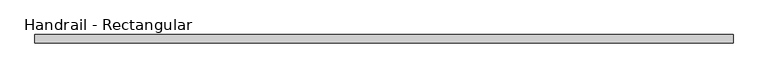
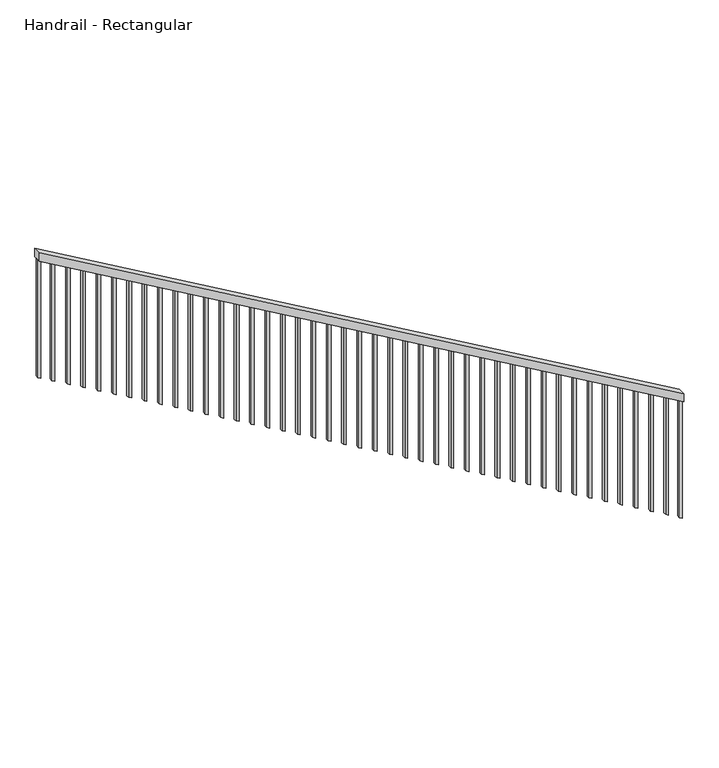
"""IFC4 building model written with IfcOpenShell, lengths in millimetres: railing geometry, Handrail - Rectangular."""

from ifc_helpers import new_model, si_unit, frame, origin, place, context, project, spatial, polyline, outline, extrude, source, transform, mapped, element, save


def handrail_rectangular_4e1d5308(model_context):
    return source(origin(), model_context, "Body", "SweptSolid", [
        extrude(outline(polyline([(1032.6379887, 55694.0814628), (1091.3806452, 55694.0814628), (3569.1096774, 51426.8814628), (3510.367021, 51426.8814628), (1032.6379887, 55694.0814628)])), frame((0.0, 3804.5924581, 0.0), z_axis=(0.0, 1.0, 0.0), x_axis=(0.0, 0.0, 1.0)), (0.0, 0.0, 1.0), 50.8),
        extrude(outline(polyline([(3456.9041177, 51518.9564628), (2634.0582633, 51518.9564628), (2622.996973, 51538.0064628), (3445.8428274, 51538.0064628), (3456.9041177, 51518.9564628)])), frame((0.0, 3820.4674581, 0.0), z_axis=(0.0, 1.0, 0.0), x_axis=(0.0, 0.0, 1.0)), (0.0, 0.0, 1.0), 19.05),
        extrude(outline(polyline([(3397.9105693, 51620.5564628), (2575.064715, 51620.5564628), (2564.0034246, 51639.6064628), (3386.849279, 51639.6064628), (3397.9105693, 51620.5564628)])), frame((0.0, 3820.4674581, 0.0), z_axis=(0.0, 1.0, 0.0), x_axis=(0.0, 0.0, 1.0)), (0.0, 0.0, 1.0), 19.05),
        extrude(outline(polyline([(3338.917021, 51722.1564628), (2516.0711666, 51722.1564628), (2505.0098762, 51741.2064628), (3327.8557306, 51741.2064628), (3338.917021, 51722.1564628)])), frame((0.0, 3820.4674581, 0.0), z_axis=(0.0, 1.0, 0.0), x_axis=(0.0, 0.0, 1.0)), (0.0, 0.0, 1.0), 19.05),
        extrude(outline(polyline([(3279.9234726, 51823.7564628), (2457.0776182, 51823.7564628), (2446.0163279, 51842.8064628), (3268.8621823, 51842.8064628), (3279.9234726, 51823.7564628)])), frame((0.0, 3820.4674581, 0.0), z_axis=(0.0, 1.0, 0.0), x_axis=(0.0, 0.0, 1.0)), (0.0, 0.0, 1.0), 19.05),
        extrude(outline(polyline([(3220.9299242, 51925.3564628), (2398.0840698, 51925.3564628), (2387.0227795, 51944.4064628), (3209.8686339, 51944.4064628), (3220.9299242, 51925.3564628)])), frame((0.0, 3820.4674581, 0.0), z_axis=(0.0, 1.0, 0.0), x_axis=(0.0, 0.0, 1.0)), (0.0, 0.0, 1.0), 19.05),
        extrude(outline(polyline([(3161.9363758, 52026.9564628), (2339.0905214, 52026.9564628), (2328.0292311, 52046.0064628), (3150.8750855, 52046.0064628), (3161.9363758, 52026.9564628)])), frame((0.0, 3820.4674581, 0.0), z_axis=(0.0, 1.0, 0.0), x_axis=(0.0, 0.0, 1.0)), (0.0, 0.0, 1.0), 19.05),
        extrude(outline(polyline([(3102.9428274, 52128.5564628), (2280.096973, 52128.5564628), (2269.0356827, 52147.6064628), (3091.8815371, 52147.6064628), (3102.9428274, 52128.5564628)])), frame((0.0, 3820.4674581, 0.0), z_axis=(0.0, 1.0, 0.0), x_axis=(0.0, 0.0, 1.0)), (0.0, 0.0, 1.0), 19.05),
        extrude(outline(polyline([(3043.949279, 52230.1564628), (2221.1034246, 52230.1564628), (2210.0421343, 52249.2064628), (3032.8879887, 52249.2064628), (3043.949279, 52230.1564628)])), frame((0.0, 3820.4674581, 0.0), z_axis=(0.0, 1.0, 0.0), x_axis=(0.0, 0.0, 1.0)), (0.0, 0.0, 1.0), 19.05),
        extrude(outline(polyline([(2984.9557306, 52331.7564628), (2162.1098762, 52331.7564628), (2151.0485859, 52350.8064628), (2973.8944403, 52350.8064628), (2984.9557306, 52331.7564628)])), frame((0.0, 3820.4674581, 0.0), z_axis=(0.0, 1.0, 0.0), x_axis=(0.0, 0.0, 1.0)), (0.0, 0.0, 1.0), 19.05),
        extrude(outline(polyline([(2925.9621823, 52433.3564628), (2103.1163279, 52433.3564628), (2092.0550375, 52452.4064628), (2914.9008919, 52452.4064628), (2925.9621823, 52433.3564628)])), frame((0.0, 3820.4674581, 0.0), z_axis=(0.0, 1.0, 0.0), x_axis=(0.0, 0.0, 1.0)), (0.0, 0.0, 1.0), 19.05),
        extrude(outline(polyline([(2866.9686339, 52534.9564628), (2044.1227795, 52534.9564628), (2033.0614891, 52554.0064628), (2855.9073435, 52554.0064628), (2866.9686339, 52534.9564628)])), frame((0.0, 3820.4674581, 0.0), z_axis=(0.0, 1.0, 0.0), x_axis=(0.0, 0.0, 1.0)), (0.0, 0.0, 1.0), 19.05),
        extrude(outline(polyline([(2807.9750855, 52636.5564628), (1985.1292311, 52636.5564628), (1974.0679408, 52655.6064628), (2796.9137952, 52655.6064628), (2807.9750855, 52636.5564628)])), frame((0.0, 3820.4674581, 0.0), z_axis=(0.0, 1.0, 0.0), x_axis=(0.0, 0.0, 1.0)), (0.0, 0.0, 1.0), 19.05),
        extrude(outline(polyline([(2748.9815371, 52738.1564628), (1926.1356827, 52738.1564628), (1915.0743924, 52757.2064628), (2737.9202468, 52757.2064628), (2748.9815371, 52738.1564628)])), frame((0.0, 3820.4674581, 0.0), z_axis=(0.0, 1.0, 0.0), x_axis=(0.0, 0.0, 1.0)), (0.0, 0.0, 1.0), 19.05),
        extrude(outline(polyline([(2689.9879887, 52839.7564628), (1867.1421343, 52839.7564628), (1856.080844, 52858.8064628), (2678.9266984, 52858.8064628), (2689.9879887, 52839.7564628)])), frame((0.0, 3820.4674581, 0.0), z_axis=(0.0, 1.0, 0.0), x_axis=(0.0, 0.0, 1.0)), (0.0, 0.0, 1.0), 19.05),
        extrude(outline(polyline([(2630.9944403, 52941.3564628), (1808.1485859, 52941.3564628), (1797.0872956, 52960.4064628), (2619.93315, 52960.4064628), (2630.9944403, 52941.3564628)])), frame((0.0, 3820.4674581, 0.0), z_axis=(0.0, 1.0, 0.0), x_axis=(0.0, 0.0, 1.0)), (0.0, 0.0, 1.0), 19.05),
        extrude(outline(polyline([(2572.0008919, 53042.9564628), (1749.1550375, 53042.9564628), (1738.0937472, 53062.0064628), (2560.9396016, 53062.0064628), (2572.0008919, 53042.9564628)])), frame((0.0, 3820.4674581, 0.0), z_axis=(0.0, 1.0, 0.0), x_axis=(0.0, 0.0, 1.0)), (0.0, 0.0, 1.0), 19.05),
        extrude(outline(polyline([(2513.0073435, 53144.5564628), (1690.1614891, 53144.5564628), (1679.1001988, 53163.6064628), (2501.9460532, 53163.6064628), (2513.0073435, 53144.5564628)])), frame((0.0, 3820.4674581, 0.0), z_axis=(0.0, 1.0, 0.0), x_axis=(0.0, 0.0, 1.0)), (0.0, 0.0, 1.0), 19.05),
        extrude(outline(polyline([(2454.0137952, 53246.1564628), (1631.1679408, 53246.1564628), (1620.1066504, 53265.2064628), (2442.9525048, 53265.2064628), (2454.0137952, 53246.1564628)])), frame((0.0, 3820.4674581, 0.0), z_axis=(0.0, 1.0, 0.0), x_axis=(0.0, 0.0, 1.0)), (0.0, 0.0, 1.0), 19.05),
        extrude(outline(polyline([(2395.0202468, 53347.7564628), (1572.1743924, 53347.7564628), (1561.113102, 53366.8064628), (2383.9589564, 53366.8064628), (2395.0202468, 53347.7564628)])), frame((0.0, 3820.4674581, 0.0), z_axis=(0.0, 1.0, 0.0), x_axis=(0.0, 0.0, 1.0)), (0.0, 0.0, 1.0), 19.05),
        extrude(outline(polyline([(2336.0266984, 53449.3564628), (1513.180844, 53449.3564628), (1502.1195537, 53468.4064628), (2324.9654081, 53468.4064628), (2336.0266984, 53449.3564628)])), frame((0.0, 3820.4674581, 0.0), z_axis=(0.0, 1.0, 0.0), x_axis=(0.0, 0.0, 1.0)), (0.0, 0.0, 1.0), 19.05),
        extrude(outline(polyline([(2277.03315, 53550.9564628), (1454.1872956, 53550.9564628), (1443.1260053, 53570.0064628), (2265.9718597, 53570.0064628), (2277.03315, 53550.9564628)])), frame((0.0, 3820.4674581, 0.0), z_axis=(0.0, 1.0, 0.0), x_axis=(0.0, 0.0, 1.0)), (0.0, 0.0, 1.0), 19.05),
        extrude(outline(polyline([(2218.0396016, 53652.5564628), (1395.1937472, 53652.5564628), (1384.1324569, 53671.6064628), (2206.9783113, 53671.6064628), (2218.0396016, 53652.5564628)])), frame((0.0, 3820.4674581, 0.0), z_axis=(0.0, 1.0, 0.0), x_axis=(0.0, 0.0, 1.0)), (0.0, 0.0, 1.0), 19.05),
        extrude(outline(polyline([(2159.0460532, 53754.1564628), (1336.2001988, 53754.1564628), (1325.1389085, 53773.2064628), (2147.9847629, 53773.2064628), (2159.0460532, 53754.1564628)])), frame((0.0, 3820.4674581, 0.0), z_axis=(0.0, 1.0, 0.0), x_axis=(0.0, 0.0, 1.0)), (0.0, 0.0, 1.0), 19.05),
        extrude(outline(polyline([(2100.0525048, 53855.7564628), (1277.2066504, 53855.7564628), (1266.1453601, 53874.8064628), (2088.9912145, 53874.8064628), (2100.0525048, 53855.7564628)])), frame((0.0, 3820.4674581, 0.0), z_axis=(0.0, 1.0, 0.0), x_axis=(0.0, 0.0, 1.0)), (0.0, 0.0, 1.0), 19.05),
        extrude(outline(polyline([(2041.0589564, 53957.3564628), (1218.213102, 53957.3564628), (1207.1518117, 53976.4064628), (2029.9976661, 53976.4064628), (2041.0589564, 53957.3564628)])), frame((0.0, 3820.4674581, 0.0), z_axis=(0.0, 1.0, 0.0), x_axis=(0.0, 0.0, 1.0)), (0.0, 0.0, 1.0), 19.05),
        extrude(outline(polyline([(1982.0654081, 54058.9564628), (1159.2195537, 54058.9564628), (1148.1582633, 54078.0064628), (1971.0041177, 54078.0064628), (1982.0654081, 54058.9564628)])), frame((0.0, 3820.4674581, 0.0), z_axis=(0.0, 1.0, 0.0), x_axis=(0.0, 0.0, 1.0)), (0.0, 0.0, 1.0), 19.05),
        extrude(outline(polyline([(1923.0718597, 54160.5564628), (1100.2260053, 54160.5564628), (1089.164715, 54179.6064628), (1912.0105693, 54179.6064628), (1923.0718597, 54160.5564628)])), frame((0.0, 3820.4674581, 0.0), z_axis=(0.0, 1.0, 0.0), x_axis=(0.0, 0.0, 1.0)), (0.0, 0.0, 1.0), 19.05),
        extrude(outline(polyline([(1864.0783113, 54262.1564628), (1041.2324569, 54262.1564628), (1030.1711666, 54281.2064628), (1853.017021, 54281.2064628), (1864.0783113, 54262.1564628)])), frame((0.0, 3820.4674581, 0.0), z_axis=(0.0, 1.0, 0.0), x_axis=(0.0, 0.0, 1.0)), (0.0, 0.0, 1.0), 19.05),
        extrude(outline(polyline([(1805.0847629, 54363.7564628), (982.2389085, 54363.7564628), (971.1776182, 54382.8064628), (1794.0234726, 54382.8064628), (1805.0847629, 54363.7564628)])), frame((0.0, 3820.4674581, 0.0), z_axis=(0.0, 1.0, 0.0), x_axis=(0.0, 0.0, 1.0)), (0.0, 0.0, 1.0), 19.05),
        extrude(outline(polyline([(1746.0912145, 54465.3564628), (923.2453601, 54465.3564628), (912.1840698, 54484.4064628), (1735.0299242, 54484.4064628), (1746.0912145, 54465.3564628)])), frame((0.0, 3820.4674581, 0.0), z_axis=(0.0, 1.0, 0.0), x_axis=(0.0, 0.0, 1.0)), (0.0, 0.0, 1.0), 19.05),
        extrude(outline(polyline([(1687.0976661, 54566.9564628), (864.2518117, 54566.9564628), (853.1905214, 54586.0064628), (1676.0363758, 54586.0064628), (1687.0976661, 54566.9564628)])), frame((0.0, 3820.4674581, 0.0), z_axis=(0.0, 1.0, 0.0), x_axis=(0.0, 0.0, 1.0)), (0.0, 0.0, 1.0), 19.05),
        extrude(outline(polyline([(1628.1041177, 54668.5564628), (805.2582633, 54668.5564628), (794.196973, 54687.6064628), (1617.0428274, 54687.6064628), (1628.1041177, 54668.5564628)])), frame((0.0, 3820.4674581, 0.0), z_axis=(0.0, 1.0, 0.0), x_axis=(0.0, 0.0, 1.0)), (0.0, 0.0, 1.0), 19.05),
        extrude(outline(polyline([(1569.1105693, 54770.1564628), (746.264715, 54770.1564628), (735.2034246, 54789.2064628), (1558.049279, 54789.2064628), (1569.1105693, 54770.1564628)])), frame((0.0, 3820.4674581, 0.0), z_axis=(0.0, 1.0, 0.0), x_axis=(0.0, 0.0, 1.0)), (0.0, 0.0, 1.0), 19.05),
        extrude(outline(polyline([(1510.117021, 54871.7564628), (687.2711666, 54871.7564628), (676.2098762, 54890.8064628), (1499.0557306, 54890.8064628), (1510.117021, 54871.7564628)])), frame((0.0, 3820.4674581, 0.0), z_axis=(0.0, 1.0, 0.0), x_axis=(0.0, 0.0, 1.0)), (0.0, 0.0, 1.0), 19.05),
        extrude(outline(polyline([(1451.1234726, 54973.3564628), (628.2776182, 54973.3564628), (617.2163279, 54992.4064628), (1440.0621823, 54992.4064628), (1451.1234726, 54973.3564628)])), frame((0.0, 3820.4674581, 0.0), z_axis=(0.0, 1.0, 0.0), x_axis=(0.0, 0.0, 1.0)), (0.0, 0.0, 1.0), 19.05),
        extrude(outline(polyline([(1392.1299242, 55074.9564628), (569.2840698, 55074.9564628), (558.2227795, 55094.0064628), (1381.0686339, 55094.0064628), (1392.1299242, 55074.9564628)])), frame((0.0, 3820.4674581, 0.0), z_axis=(0.0, 1.0, 0.0), x_axis=(0.0, 0.0, 1.0)), (0.0, 0.0, 1.0), 19.05),
        extrude(outline(polyline([(1333.1363758, 55176.5564628), (510.2905214, 55176.5564628), (499.2292311, 55195.6064628), (1322.0750855, 55195.6064628), (1333.1363758, 55176.5564628)])), frame((0.0, 3820.4674581, 0.0), z_axis=(0.0, 1.0, 0.0), x_axis=(0.0, 0.0, 1.0)), (0.0, 0.0, 1.0), 19.05),
        extrude(outline(polyline([(1274.1428274, 55278.1564628), (451.296973, 55278.1564628), (440.2356827, 55297.2064628), (1263.0815371, 55297.2064628), (1274.1428274, 55278.1564628)])), frame((0.0, 3820.4674581, 0.0), z_axis=(0.0, 1.0, 0.0), x_axis=(0.0, 0.0, 1.0)), (0.0, 0.0, 1.0), 19.05),
        extrude(outline(polyline([(1215.149279, 55379.7564628), (392.3034246, 55379.7564628), (381.2421343, 55398.8064628), (1204.0879887, 55398.8064628), (1215.149279, 55379.7564628)])), frame((0.0, 3820.4674581, 0.0), z_axis=(0.0, 1.0, 0.0), x_axis=(0.0, 0.0, 1.0)), (0.0, 0.0, 1.0), 19.05),
        extrude(outline(polyline([(1156.1557306, 55481.3564628), (333.3098762, 55481.3564628), (322.2485859, 55500.4064628), (1145.0944403, 55500.4064628), (1156.1557306, 55481.3564628)])), frame((0.0, 3820.4674581, 0.0), z_axis=(0.0, 1.0, 0.0), x_axis=(0.0, 0.0, 1.0)), (0.0, 0.0, 1.0), 19.05),
        extrude(outline(polyline([(1097.1621823, 55582.9564628), (274.3163279, 55582.9564628), (263.2550375, 55602.0064628), (1086.1008919, 55602.0064628), (1097.1621823, 55582.9564628)])), frame((0.0, 3820.4674581, 0.0), z_axis=(0.0, 1.0, 0.0), x_axis=(0.0, 0.0, 1.0)), (0.0, 0.0, 1.0), 19.05),
        extrude(outline(polyline([(3510.367021, 51426.8814628), (2687.5211666, 51426.8814628), (2676.4598762, 51445.9314628), (3499.3057306, 51445.9314628), (3510.367021, 51426.8814628)])), frame((0.0, 3820.4674581, 0.0), z_axis=(0.0, 1.0, 0.0), x_axis=(0.0, 0.0, 1.0)), (0.0, 0.0, 1.0), 19.05),
        extrude(outline(polyline([(1043.699279, 55675.0314628), (220.8534246, 55675.0314628), (209.7921343, 55694.0814628), (1032.6379887, 55694.0814628), (1043.699279, 55675.0314628)])), frame((0.0, 3820.4674581, 0.0), z_axis=(0.0, 1.0, 0.0), x_axis=(0.0, 0.0, 1.0)), (0.0, 0.0, 1.0), 19.05),
    ])


if __name__ == "__main__":
    model = new_model("IFC4")
    model_context = context("Model", 3, world=origin())
    ifc_project = project(units=[si_unit("LENGTHUNIT", "METRE", prefix="MILLI")], contexts=[model_context])
    site = spatial("IfcSite", under=ifc_project)
    building = spatial("IfcBuilding", under=site)
    placement = place(None, origin())
    handrail_rectangular_shape = handrail_rectangular_4e1d5308(model_context)
    element("IfcRailing", 1, ObjectType="Handrail - Rectangular", at=placement, inside=building, context=model_context, shape_type="MappedRepresentation", body=[
        mapped(handrail_rectangular_shape, transform((0.0, 0.0, 0.0), x_axis=(1.0, 0.0, 0.0), y_axis=(0.0, 1.0, 0.0), z_axis=(0.0, 0.0, 1.0))),
    ])
    save(model, "model.ifc")
